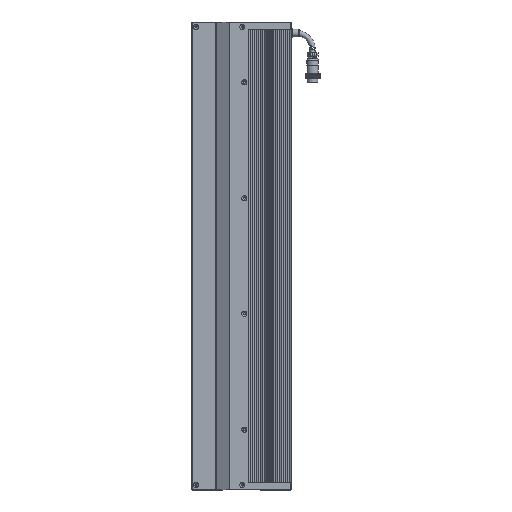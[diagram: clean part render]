
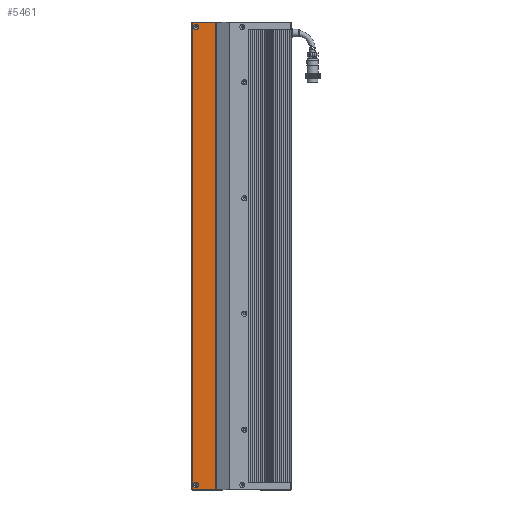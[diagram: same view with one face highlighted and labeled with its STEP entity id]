
A CAD part, left-side view. The second image highlights one B-rep face of the part: STEP entity #5461.
In plain terms, the highlighted planar face has unit normal (-1, 0, 0).
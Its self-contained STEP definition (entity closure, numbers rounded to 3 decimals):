
#900 = CARTESIAN_POINT ( 'NONE',  ( -15.462, 16.939, 125.5 ) ) ;
#3267 = DIRECTION ( 'NONE',  ( 0., 0., -1. ) ) ;
#4001 = EDGE_CURVE ( 'NONE', #102748, #8576, #40401, .T. ) ;
#5461 = ADVANCED_FACE ( 'NONE', ( #78338, #115014, #125682 ), #74497, .F. ) ;
#8576 = VERTEX_POINT ( 'NONE', #111195 ) ;
#11413 = ORIENTED_EDGE ( 'NONE', *, *, #106645, .F. ) ;
#13498 = CARTESIAN_POINT ( 'NONE',  ( -15.462, 13.789, 679.5 ) ) ;
#14625 = CARTESIAN_POINT ( 'NONE',  ( -15.462, 16.939, 679.5 ) ) ;
#15271 = VECTOR ( 'NONE', #3267, 1000. ) ;
#16101 = DIRECTION ( 'NONE',  ( 0., 1., 0. ) ) ;
#16919 = EDGE_CURVE ( 'NONE', #80879, #33769, #24594, .T. ) ;
#19564 = VERTEX_POINT ( 'NONE', #13498 ) ;
#22536 = LINE ( 'NONE', #35749, #75792 ) ;
#24594 = LINE ( 'NONE', #120099, #15271 ) ;
#27578 = EDGE_LOOP ( 'NONE', ( #120842 ) ) ;
#29182 = CARTESIAN_POINT ( 'NONE',  ( -15.462, 21.439, 120. ) ) ;
#30606 = AXIS2_PLACEMENT_3D ( 'NONE', #900, #39304, #57594 ) ;
#33769 = VERTEX_POINT ( 'NONE', #54976 ) ;
#34306 = DIRECTION ( 'NONE',  ( -1., 0., 0. ) ) ;
#35749 = CARTESIAN_POINT ( 'NONE',  ( -15.462, -7.561, 685. ) ) ;
#35992 = ORIENTED_EDGE ( 'NONE', *, *, #103529, .F. ) ;
#38798 = VECTOR ( 'NONE', #59699, 1000. ) ;
#39304 = DIRECTION ( 'NONE',  ( -1., 0., 0. ) ) ;
#40401 = LINE ( 'NONE', #88174, #38798 ) ;
#47690 = AXIS2_PLACEMENT_3D ( 'NONE', #14625, #34306, #53030 ) ;
#49557 = ORIENTED_EDGE ( 'NONE', *, *, #4001, .F. ) ;
#53030 = DIRECTION ( 'NONE',  ( 0., -1., 0. ) ) ;
#54976 = CARTESIAN_POINT ( 'NONE',  ( -15.462, -6.987, 120. ) ) ;
#57594 = DIRECTION ( 'NONE',  ( 0., -1., 0. ) ) ;
#59699 = DIRECTION ( 'NONE',  ( 0., 0., 1. ) ) ;
#61758 = CIRCLE ( 'NONE', #47690, 3.15 ) ;
#62176 = ORIENTED_EDGE ( 'NONE', *, *, #62501, .F. ) ;
#62501 = EDGE_CURVE ( 'NONE', #33769, #102748, #78730, .T. ) ;
#72037 = EDGE_CURVE ( 'NONE', #86753, #86753, #99172, .T. ) ;
#73505 = CARTESIAN_POINT ( 'NONE',  ( -15.462, -6.987, 685. ) ) ;
#74497 = PLANE ( 'NONE',  #123956 ) ;
#75792 = VECTOR ( 'NONE', #122323, 1000. ) ;
#78338 = FACE_BOUND ( 'NONE', #27578, .T. ) ;
#78730 = LINE ( 'NONE', #85974, #80199 ) ;
#80199 = VECTOR ( 'NONE', #94537, 1000. ) ;
#80879 = VERTEX_POINT ( 'NONE', #73505 ) ;
#85974 = CARTESIAN_POINT ( 'NONE',  ( -15.462, -7.561, 120. ) ) ;
#86753 = VERTEX_POINT ( 'NONE', #117623 ) ;
#88174 = CARTESIAN_POINT ( 'NONE',  ( -15.462, 21.439, 683.5 ) ) ;
#94537 = DIRECTION ( 'NONE',  ( 0., 1., 0. ) ) ;
#94914 = DIRECTION ( 'NONE',  ( 1., 0., 0. ) ) ;
#97556 = EDGE_LOOP ( 'NONE', ( #49557, #62176, #123005, #35992 ) ) ;
#99172 = CIRCLE ( 'NONE', #30606, 3.15 ) ;
#102748 = VERTEX_POINT ( 'NONE', #29182 ) ;
#103529 = EDGE_CURVE ( 'NONE', #8576, #80879, #22536, .T. ) ;
#105284 = EDGE_LOOP ( 'NONE', ( #11413 ) ) ;
#106645 = EDGE_CURVE ( 'NONE', #19564, #19564, #61758, .T. ) ;
#111195 = CARTESIAN_POINT ( 'NONE',  ( -15.462, 21.439, 685. ) ) ;
#115014 = FACE_BOUND ( 'NONE', #105284, .T. ) ;
#117623 = CARTESIAN_POINT ( 'NONE',  ( -15.462, 13.789, 125.5 ) ) ;
#120099 = CARTESIAN_POINT ( 'NONE',  ( -15.462, -6.987, 683.5 ) ) ;
#120842 = ORIENTED_EDGE ( 'NONE', *, *, #72037, .F. ) ;
#122323 = DIRECTION ( 'NONE',  ( 0., -1., 0. ) ) ;
#123005 = ORIENTED_EDGE ( 'NONE', *, *, #16919, .F. ) ;
#123956 = AXIS2_PLACEMENT_3D ( 'NONE', #124876, #94914, #16101 ) ;
#124876 = CARTESIAN_POINT ( 'NONE',  ( -15.462, -7.561, 683.5 ) ) ;
#125682 = FACE_OUTER_BOUND ( 'NONE', #97556, .T. ) ;
